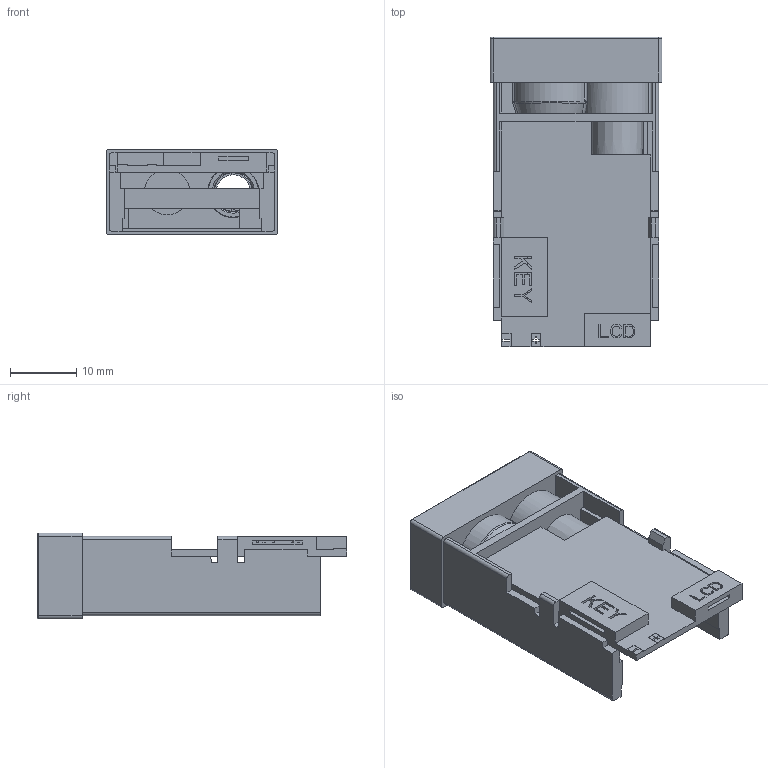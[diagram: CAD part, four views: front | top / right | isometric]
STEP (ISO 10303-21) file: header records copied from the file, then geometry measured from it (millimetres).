
FILE_DESCRIPTION((''),'2;1');
FILE_NAME('BREP_WITH_VOIDS_104_ASM','2017-10-19T',('Administrator'),(''),'PRO/ENGINEER BY PARAMETRIC TECHNOLOGY CORPORATION, 2011310','PRO/ENGINEER BY PARAMETRIC TECHNOLOGY CORPORATION, 2011310','');
FILE_SCHEMA(('CONFIG_CONTROL_DESIGN'));
Length unit declared in the file: millimetre
Products named in the file (6): MANIFOLD_SOLID_BREP_472; MANIFOLD_SOLID_BREP_944; MANIFOLD_SOLID_BREP_1416; MANIFOLD_SOLID_BREP_2954; MANIFOLD_SOLID_BREP_3426; BREP_WITH_VOIDS_104_ASM
Assembly tree (5 placements, depth 2):
  BREP_WITH_VOIDS_104_ASM
    MANIFOLD_SOLID_BREP_472
    MANIFOLD_SOLID_BREP_944
    MANIFOLD_SOLID_BREP_1416
    MANIFOLD_SOLID_BREP_2954
    MANIFOLD_SOLID_BREP_3426
Bounding box: 26 x 46.8 x 13 mm (x, y, z)
Surface area: 7508.2 mm2
Topology: 5 solids, 6 shells, 542 faces, 1594 edges, 1062 vertices
Faces by surface type: plane 347, cylinder 101, torus 42, cone 41, bspline 6, sphere 3, revolution 2
Entity records: 19033 total; most frequent: CARTESIAN_POINT 4145, ORIENTED_EDGE 3169, DIRECTION 3040, EDGE_CURVE 1586, VECTOR 1074, LINE 1074, VERTEX_POINT 1062, AXIS2_PLACEMENT_3D 982
